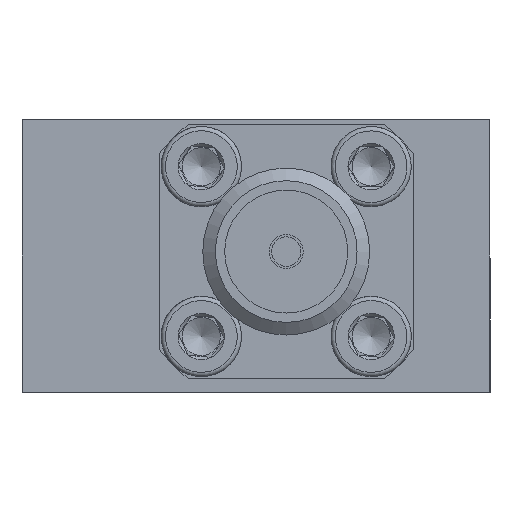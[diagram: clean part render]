
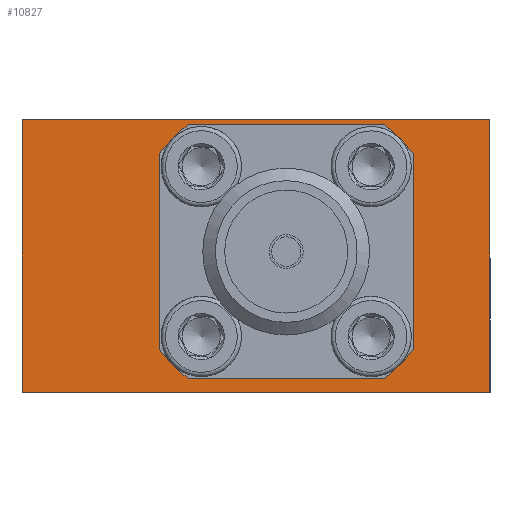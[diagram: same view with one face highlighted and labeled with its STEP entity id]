
A CAD part, left-side view. The second image highlights one B-rep face of the part: STEP entity #10827.
In plain terms, the highlighted planar face has unit normal (-1, 0, 0).
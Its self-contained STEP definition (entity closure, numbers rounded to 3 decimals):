
#178=LINE('',#13805,#868);
#182=LINE('',#13817,#872);
#186=LINE('',#13829,#876);
#190=LINE('',#13841,#880);
#526=LINE('',#14806,#1216);
#539=LINE('',#14838,#1229);
#575=LINE('',#14914,#1265);
#592=LINE('',#14989,#1282);
#868=VECTOR('',#11704,1000.);
#872=VECTOR('',#11716,1000.);
#876=VECTOR('',#11728,1000.);
#880=VECTOR('',#11740,1000.);
#1216=VECTOR('',#12526,1000.);
#1229=VECTOR('',#12549,1000.);
#1265=VECTOR('',#12611,1000.);
#1282=VECTOR('',#12698,1000.);
#3239=ORIENTED_EDGE('',*,*,#4045,.T.);
#3240=ORIENTED_EDGE('',*,*,#4104,.F.);
#3241=ORIENTED_EDGE('',*,*,#4061,.F.);
#3242=ORIENTED_EDGE('',*,*,#4140,.T.);
#3243=ORIENTED_EDGE('',*,*,#3610,.F.);
#3244=ORIENTED_EDGE('',*,*,#3606,.F.);
#3245=ORIENTED_EDGE('',*,*,#3628,.F.);
#3246=ORIENTED_EDGE('',*,*,#3625,.F.);
#3247=ORIENTED_EDGE('',*,*,#3622,.F.);
#3248=ORIENTED_EDGE('',*,*,#3619,.F.);
#3249=ORIENTED_EDGE('',*,*,#3616,.F.);
#3250=ORIENTED_EDGE('',*,*,#3613,.F.);
#3606=EDGE_CURVE('',#4585,#4586,#5306,.T.);
#3610=EDGE_CURVE('',#4586,#4589,#178,.T.);
#3613=EDGE_CURVE('',#4589,#4591,#5308,.T.);
#3616=EDGE_CURVE('',#4591,#4593,#182,.T.);
#3619=EDGE_CURVE('',#4593,#4595,#5310,.T.);
#3622=EDGE_CURVE('',#4595,#4597,#186,.T.);
#3625=EDGE_CURVE('',#4597,#4599,#5312,.T.);
#3628=EDGE_CURVE('',#4599,#4585,#190,.T.);
#4045=EDGE_CURVE('',#4909,#4908,#526,.T.);
#4061=EDGE_CURVE('',#4923,#4924,#539,.T.);
#4104=EDGE_CURVE('',#4924,#4908,#575,.T.);
#4140=EDGE_CURVE('',#4923,#4909,#592,.T.);
#4585=VERTEX_POINT('',#13797);
#4586=VERTEX_POINT('',#13798);
#4589=VERTEX_POINT('',#13806);
#4591=VERTEX_POINT('',#13812);
#4593=VERTEX_POINT('',#13818);
#4595=VERTEX_POINT('',#13824);
#4597=VERTEX_POINT('',#13830);
#4599=VERTEX_POINT('',#13836);
#4908=VERTEX_POINT('',#14805);
#4909=VERTEX_POINT('',#14807);
#4923=VERTEX_POINT('',#14839);
#4924=VERTEX_POINT('',#14840);
#5306=CIRCLE('',#10981,6.);
#5308=CIRCLE('',#10985,6.);
#5310=CIRCLE('',#10989,6.);
#5312=CIRCLE('',#10993,6.);
#5997=EDGE_LOOP('',(#3239,#3240,#3241,#3242));
#5998=EDGE_LOOP('',(#3243,#3244,#3245,#3246,#3247,#3248,#3249,#3250));
#6671=FACE_BOUND('',#5997,.T.);
#6672=FACE_BOUND('',#5998,.T.);
#7130=PLANE('',#11467);
#10827=ADVANCED_FACE('',(#6671,#6672),#7130,.F.);
#10981=AXIS2_PLACEMENT_3D('',#13796,#11696,#11697);
#10985=AXIS2_PLACEMENT_3D('',#13811,#11709,#11710);
#10989=AXIS2_PLACEMENT_3D('',#13823,#11721,#11722);
#10993=AXIS2_PLACEMENT_3D('',#13835,#11733,#11734);
#11467=AXIS2_PLACEMENT_3D('',#15584,#13302,#13303);
#11696=DIRECTION('',(-1.,0.,0.));
#11697=DIRECTION('',(0.,0.,-1.));
#11704=DIRECTION('',(0.,0.,-1.));
#11709=DIRECTION('',(-1.,0.,0.));
#11710=DIRECTION('',(0.,0.,-1.));
#11716=DIRECTION('',(0.,-1.,0.));
#11721=DIRECTION('',(-1.,0.,0.));
#11722=DIRECTION('',(0.,0.,-1.));
#11728=DIRECTION('',(0.,0.,1.));
#11733=DIRECTION('',(-1.,0.,0.));
#11734=DIRECTION('',(0.,0.,-1.));
#11740=DIRECTION('',(0.,1.,0.));
#12526=DIRECTION('',(0.,0.,-1.));
#12549=DIRECTION('',(0.,0.,-1.));
#12611=DIRECTION('',(0.,1.,0.));
#12698=DIRECTION('',(0.,1.,0.));
#13302=DIRECTION('',(1.,0.,0.));
#13303=DIRECTION('',(0.,1.,0.));
#13796=CARTESIAN_POINT('',(-9.552,-1.13,5.265));
#13797=CARTESIAN_POINT('',(-9.552,2.536,10.015));
#13798=CARTESIAN_POINT('',(-9.552,3.62,8.931));
#13805=CARTESIAN_POINT('',(-9.552,3.62,8.931));
#13806=CARTESIAN_POINT('',(-9.552,3.62,1.6));
#13811=CARTESIAN_POINT('',(-9.552,-1.13,5.265));
#13812=CARTESIAN_POINT('',(-9.552,2.536,0.515));
#13817=CARTESIAN_POINT('',(-9.552,2.536,0.515));
#13818=CARTESIAN_POINT('',(-9.552,-4.796,0.515));
#13823=CARTESIAN_POINT('',(-9.552,-1.13,5.265));
#13824=CARTESIAN_POINT('',(-9.552,-5.88,1.6));
#13829=CARTESIAN_POINT('',(-9.552,-5.88,1.6));
#13830=CARTESIAN_POINT('',(-9.552,-5.88,8.931));
#13835=CARTESIAN_POINT('',(-9.552,-1.13,5.265));
#13836=CARTESIAN_POINT('',(-9.552,-4.796,10.015));
#13841=CARTESIAN_POINT('',(-9.552,-4.796,10.015));
#14805=CARTESIAN_POINT('',(-9.552,8.75,0.));
#14806=CARTESIAN_POINT('',(-9.552,8.75,5.2));
#14807=CARTESIAN_POINT('',(-9.552,8.75,10.2));
#14838=CARTESIAN_POINT('',(-9.552,-8.75,5.2));
#14839=CARTESIAN_POINT('',(-9.552,-8.75,10.2));
#14840=CARTESIAN_POINT('',(-9.552,-8.75,0.));
#14914=CARTESIAN_POINT('',(-9.552,-8.75,0.));
#14989=CARTESIAN_POINT('',(-9.552,-8.75,10.2));
#15584=CARTESIAN_POINT('',(-9.552,8.75,5.2));
